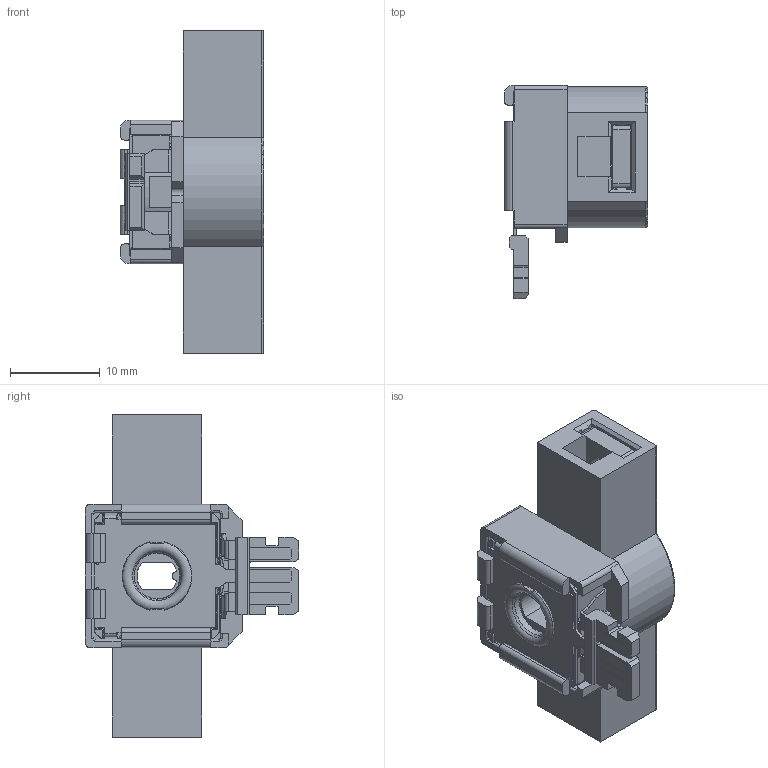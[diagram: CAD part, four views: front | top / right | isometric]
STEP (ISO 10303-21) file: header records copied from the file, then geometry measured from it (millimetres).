
FILE_DESCRIPTION(/* description */ (''),/* implementation_level */ '2;1');
FILE_NAME(/* name */ 'C:\Users\CEM\Desktop\ENVIAR\TRANSICION 3D CATALOGOS\QC16RHP.stp',/* time_stamp */ '2025-11-19T17:24:56+01:00',/* author */ ('CEM'),/* organization */ (''),/* preprocessor_version */ 'ST-DEVELOPER v16.13',/* originating_system */ 'Autodesk Inventor 2018',/* authorisation */ '');
FILE_SCHEMA (('AUTOMOTIVE_DESIGN { 1 0 10303 214 3 1 1 }'));
Length unit declared in the file: millimetre
Products named in the file (1): QC16RHP
Bounding box: 16 x 23.8 x 36 mm (x, y, z)
Volume: 4104.6 mm3; surface area: 4930.2 mm2
Topology: 1 solids, 2 shells, 854 faces, 2473 edges, 1586 vertices
Faces by surface type: plane 655, cylinder 175, cone 11, torus 7, bspline 6
Full cylindrical faces by diameter (mm): 1 x3, 3.242 x2, 4.35 x2, 5.5 x1, 5.65 x1, 5.8 x1, 6 x1, 6.15 x1, 6.5 x1, 6.87 x1, 6.937 x3, 9.5 x1, 13 x1
Entity records: 28836 total; most frequent: CARTESIAN_POINT 5200, ORIENTED_EDGE 4880, DIRECTION 4569, EDGE_CURVE 2434, LINE 1921, VECTOR 1921, VERTEX_POINT 1573, AXIS2_PLACEMENT_3D 1324
